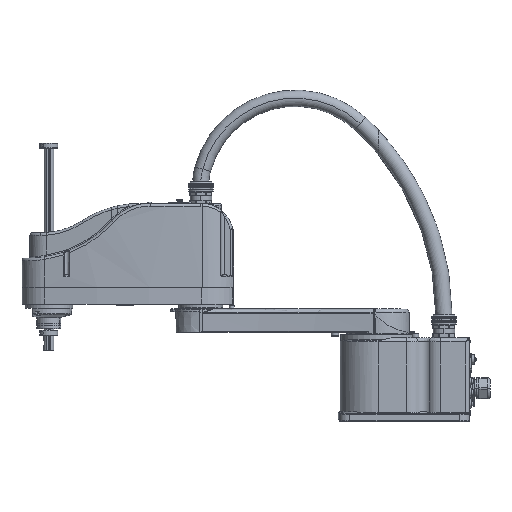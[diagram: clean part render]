
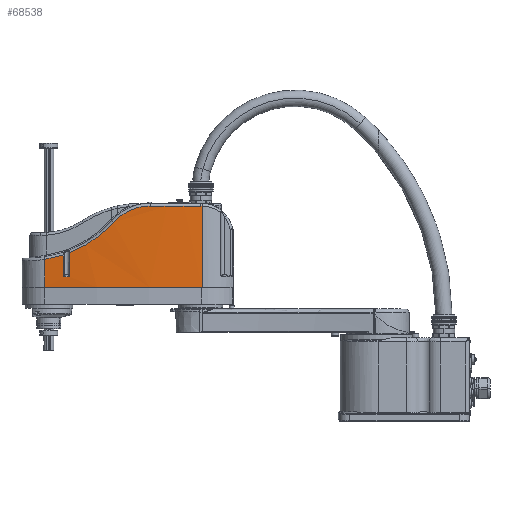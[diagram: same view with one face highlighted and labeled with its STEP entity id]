
A CAD part, top view. The second image highlights one B-rep face of the part: STEP entity #68538.
In plain terms, the highlighted cylindrical face has radius 1707.75 mm (diameter 3415.5 mm), a partial arc.
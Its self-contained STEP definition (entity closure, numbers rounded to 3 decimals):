
#50717=DIRECTION('',(0.,1.,0.));
#50718=VECTOR('',#50717,160.458);
#50719=CARTESIAN_POINT('',(-347.589,265.,70.46));
#50720=LINE('',#50719,#50718);
#50792=CARTESIAN_POINT('',(-404.,425.5,-1636.358));
#50793=DIRECTION('',(0.,-1.,0.));
#50794=DIRECTION('',(0.032,0.,0.999));
#50795=AXIS2_PLACEMENT_3D('',#50792,#50793,#50794);
#51131=CARTESIAN_POINT('',(-404.,265.,-1636.358));
#51132=DIRECTION('',(0.,-1.,0.));
#51133=DIRECTION('',(0.033,0.,0.999));
#51134=AXIS2_PLACEMENT_3D('',#51131,#51132,#51133);
#51136=CARTESIAN_POINT('',(-657.88,320.11,
52.415));
#51137=CARTESIAN_POINT('',(-651.414,321.095,
53.387));
#51138=CARTESIAN_POINT('',(-639.015,323.534,
55.178));
#51139=CARTESIAN_POINT('',(-626.922,326.967,
56.79));
#51140=CARTESIAN_POINT('',(-621.127,328.866,
57.533));
#51142=DIRECTION('',(0.,-1.,0.));
#51143=VECTOR('',#51142,41.366);
#51144=CARTESIAN_POINT('',(-621.127,328.866,
57.533));
#51145=LINE('',#51144,#51143);
#51146=CARTESIAN_POINT('',(-621.127,287.5,
57.533));
#51147=CARTESIAN_POINT('',(-621.127,287.369,
57.533));
#51148=CARTESIAN_POINT('',(-621.101,287.106,
57.536));
#51149=CARTESIAN_POINT('',(-621.005,286.79,
57.549));
#51150=CARTESIAN_POINT('',(-620.892,286.553,
57.563));
#51151=CARTESIAN_POINT('',(-620.79,286.383,57.576));
#51152=CARTESIAN_POINT('',(-620.673,286.226,
57.591));
#51153=CARTESIAN_POINT('',(-620.497,286.033,
57.613));
#51154=CARTESIAN_POINT('',(-620.292,285.865,
57.64));
#51155=CARTESIAN_POINT('',(-620.068,285.732,
57.668));
#51156=CARTESIAN_POINT('',(-619.891,285.649,
57.691));
#51157=CARTESIAN_POINT('',(-619.706,285.583,
57.714));
#51158=CARTESIAN_POINT('',(-619.452,285.519,
57.747));
#51159=CARTESIAN_POINT('',(-619.256,285.5,
57.772));
#51160=CARTESIAN_POINT('',(-619.126,285.5,57.788));
#51162=CARTESIAN_POINT('',(-611.121,285.5,
58.785));
#51163=CARTESIAN_POINT('',(-610.992,285.5,
58.801));
#51164=CARTESIAN_POINT('',(-610.796,285.519,
58.825));
#51165=CARTESIAN_POINT('',(-610.541,285.583,
58.856));
#51166=CARTESIAN_POINT('',(-610.296,285.67,
58.886));
#51167=CARTESIAN_POINT('',(-610.064,285.793,
58.914));
#51168=CARTESIAN_POINT('',(-609.853,285.949,
58.94));
#51169=CARTESIAN_POINT('',(-609.707,286.08,
58.958));
#51170=CARTESIAN_POINT('',(-609.574,286.226,
58.974));
#51171=CARTESIAN_POINT('',(-609.456,286.385,
58.988));
#51172=CARTESIAN_POINT('',(-609.355,286.553,
59.));
#51173=CARTESIAN_POINT('',(-609.243,286.789,
59.014));
#51174=CARTESIAN_POINT('',(-609.146,287.106,
59.026));
#51175=CARTESIAN_POINT('',(-609.12,287.369,
59.029));
#51176=CARTESIAN_POINT('',(-609.12,287.5,
59.029));
#51178=DIRECTION('',(0.,1.,0.));
#51179=VECTOR('',#51178,45.673);
#51180=CARTESIAN_POINT('',(-609.12,287.5,
59.029));
#51181=LINE('',#51180,#51179);
#51182=CARTESIAN_POINT('',(-609.12,333.173,
59.029));
#51183=CARTESIAN_POINT('',(-601.073,336.316,
60.002));
#51184=CARTESIAN_POINT('',(-591.163,340.844,
61.128));
#51185=CARTESIAN_POINT('',(-579.522,347.22,
62.352));
#51186=CARTESIAN_POINT('',(-571.803,351.75,
63.136));
#51187=CARTESIAN_POINT('',(-558.719,360.223,
64.397));
#51188=CARTESIAN_POINT('',(-541.226,373.861,
65.909));
#51189=CARTESIAN_POINT('',(-528.511,386.404,
66.858));
#51190=CARTESIAN_POINT('',(-522.487,393.1,
67.277));
#51192=CARTESIAN_POINT('',(-522.487,393.1,
67.277));
#51193=CARTESIAN_POINT('',(-520.185,395.66,
67.437));
#51194=CARTESIAN_POINT('',(-516.545,399.299,
67.683));
#51195=CARTESIAN_POINT('',(-511.312,403.764,
68.019));
#51196=CARTESIAN_POINT('',(-505.85,407.946,
68.356));
#51197=CARTESIAN_POINT('',(-498.71,412.569,
68.771));
#51198=CARTESIAN_POINT('',(-491.133,416.426,
69.173));
#51199=CARTESIAN_POINT('',(-484.817,419.041,
69.481));
#51200=CARTESIAN_POINT('',(-478.307,421.343,
69.78));
#51201=CARTESIAN_POINT('',(-470.061,423.542,
70.124));
#51202=CARTESIAN_POINT('',(-459.982,425.137,
70.484));
#51203=CARTESIAN_POINT('',(-453.143,425.5,
70.688));
#51204=CARTESIAN_POINT('',(-449.692,425.5,
70.781));
#51206=CARTESIAN_POINT('',(-349.841,425.5,
70.533));
#51207=CARTESIAN_POINT('',(-349.09,425.5,
70.509));
#51208=CARTESIAN_POINT('',(-348.339,425.486,
70.485));
#51209=CARTESIAN_POINT('',(-347.589,425.458,
70.46));
#51249=DIRECTION('',(0.,-1.,0.));
#51250=VECTOR('',#51249,55.11);
#51251=CARTESIAN_POINT('',(-657.88,320.11,
52.415));
#51252=LINE('',#51251,#51250);
#57797=CARTESIAN_POINT('',(-657.88,320.11,
52.415));
#58061=CARTESIAN_POINT('',(-404.,285.5,-1636.358));
#58062=DIRECTION('',(0.,-1.,0.));
#58063=DIRECTION('',(-0.121,0.,0.993));
#58064=AXIS2_PLACEMENT_3D('',#58061,#58062,#58063);
#65526=CARTESIAN_POINT('',(-347.589,265.,70.46));
#65528=VERTEX_POINT('',#65526);
#65671=VERTEX_POINT('',#57797);
#65672=VERTEX_POINT('',#51140);
#65673=VERTEX_POINT('',#51182);
#65674=VERTEX_POINT('',#51190);
#65675=VERTEX_POINT('',#51204);
#65676=CARTESIAN_POINT('',(-349.841,425.5,70.533));
#65677=VERTEX_POINT('',#65676);
#65678=VERTEX_POINT('',#51209);
#65679=CARTESIAN_POINT('',(-621.127,287.5,
57.533));
#65680=VERTEX_POINT('',#65679);
#65681=VERTEX_POINT('',#51160);
#65682=CARTESIAN_POINT('',(-611.121,285.5,58.785));
#65683=VERTEX_POINT('',#65682);
#65684=VERTEX_POINT('',#51176);
#65963=CARTESIAN_POINT('',(-657.88,265.,52.415));
#65964=VERTEX_POINT('',#65963);
#68512=CARTESIAN_POINT('',(-404.,265.,-1636.358));
#68513=DIRECTION('',(0.,1.,0.));
#68514=DIRECTION('',(-1.,0.,0.));
#68515=AXIS2_PLACEMENT_3D('',#68512,#68513,#68514);
#68516=CYLINDRICAL_SURFACE('',#68515,1707.75);
#68517=ORIENTED_EDGE('',*,*,#67540,.T.);
#68519=ORIENTED_EDGE('',*,*,#68518,.F.);
#68521=ORIENTED_EDGE('',*,*,#68520,.T.);
#68523=ORIENTED_EDGE('',*,*,#68522,.T.);
#68525=ORIENTED_EDGE('',*,*,#68524,.T.);
#68527=ORIENTED_EDGE('',*,*,#68526,.F.);
#68529=ORIENTED_EDGE('',*,*,#68528,.T.);
#68530=ORIENTED_EDGE('',*,*,#68504,.T.);
#68531=ORIENTED_EDGE('',*,*,#68080,.T.);
#68532=ORIENTED_EDGE('',*,*,#68008,.T.);
#68533=ORIENTED_EDGE('',*,*,#67906,.F.);
#68534=ORIENTED_EDGE('',*,*,#67891,.T.);
#68535=ORIENTED_EDGE('',*,*,#67754,.F.);
#68536=EDGE_LOOP('',(#68517,#68519,#68521,#68523,#68525,#68527,#68529,#68530,
#68531,#68532,#68533,#68534,#68535));
#68537=FACE_OUTER_BOUND('',#68536,.F.);
#68538=ADVANCED_FACE('',(#68537),#68516,.T.);
#50796=CIRCLE('',#50795,1707.75);
#51135=CIRCLE('',#51134,1707.75);
#51141=B_SPLINE_CURVE_WITH_KNOTS('',3,(#51136,#51137,#51138,#51139,#51140),
.UNSPECIFIED.,.F.,.F.,(4,1,4),(0.,0.515,1.),.UNSPECIFIED.);
#51161=B_SPLINE_CURVE_WITH_KNOTS('',3,(#51146,#51147,#51148,#51149,#51150,
#51151,#51152,#51153,#51154,#51155,#51156,#51157,#51158,#51159,#51160),
.UNSPECIFIED.,.F.,.F.,(4,1,1,1,1,1,1,1,1,1,1,1,4),(0.,0.125,
0.25,0.313,0.375,0.438,
0.5,0.625,0.688,0.75,
0.813,0.875,1.),.UNSPECIFIED.);
#51177=B_SPLINE_CURVE_WITH_KNOTS('',3,(#51162,#51163,#51164,#51165,#51166,
#51167,#51168,#51169,#51170,#51171,#51172,#51173,#51174,#51175,#51176),
.UNSPECIFIED.,.F.,.F.,(4,1,1,1,1,1,1,1,1,1,1,1,4),(0.,0.125,
0.187,0.25,0.375,0.437,
0.5,0.562,0.625,0.687,
0.75,0.875,1.),.UNSPECIFIED.);
#51191=B_SPLINE_CURVE_WITH_KNOTS('',3,(#51182,#51183,#51184,#51185,#51186,
#51187,#51188,#51189,#51190),.UNSPECIFIED.,.F.,.F.,(4,1,1,1,1,1,4),(0.,
0.246,0.308,0.371,0.497,
0.749,1.),.UNSPECIFIED.);
#51205=B_SPLINE_CURVE_WITH_KNOTS('',3,(#51192,#51193,#51194,#51195,#51196,
#51197,#51198,#51199,#51200,#51201,#51202,#51203,#51204),.UNSPECIFIED.,.F.,.F.,(
4,1,1,1,1,1,1,1,1,1,4),(0.,0.125,0.187,
0.25,0.375,0.5,0.562,
0.625,0.75,0.875,1.),.UNSPECIFIED.);
#51210=B_SPLINE_CURVE_WITH_KNOTS('',3,(#51206,#51207,#51208,#51209),
.UNSPECIFIED.,.F.,.F.,(4,4),(0.,1.),.UNSPECIFIED.);
#58065=CIRCLE('',#58064,1707.75);
#67540=EDGE_CURVE('',#65528,#65964,#51135,.T.);
#67754=EDGE_CURVE('',#65528,#65678,#50720,.T.);
#67891=EDGE_CURVE('',#65677,#65678,#51210,.T.);
#67906=EDGE_CURVE('',#65677,#65675,#50796,.T.);
#68008=EDGE_CURVE('',#65674,#65675,#51205,.T.);
#68080=EDGE_CURVE('',#65673,#65674,#51191,.T.);
#68504=EDGE_CURVE('',#65684,#65673,#51181,.T.);
#68518=EDGE_CURVE('',#65671,#65964,#51252,.T.);
#68520=EDGE_CURVE('',#65671,#65672,#51141,.T.);
#68522=EDGE_CURVE('',#65672,#65680,#51145,.T.);
#68524=EDGE_CURVE('',#65680,#65681,#51161,.T.);
#68526=EDGE_CURVE('',#65683,#65681,#58065,.T.);
#68528=EDGE_CURVE('',#65683,#65684,#51177,.T.);
